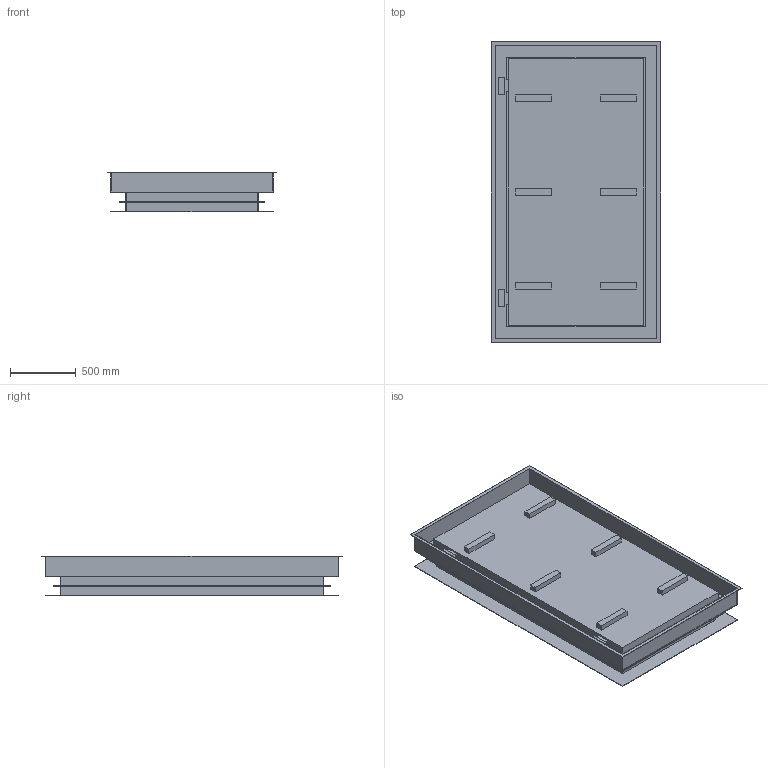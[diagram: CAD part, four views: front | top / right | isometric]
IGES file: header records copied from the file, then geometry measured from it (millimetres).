
Start section:  PTC IGES file: 51502308.igs
Global section: file name: 51502308.igs; native system: Creo Parametric by PTC Inc.; preprocessor: 2019224; author: hrl; organization: Unknown; date: 20200629.150437; units: millimetre
Bounding box: 1290 x 2290 x 300 mm (x, y, z)
Surface area: 13194928 mm2 (no closed solid volume)
Topology: 0 solids, 0 shells, 129 faces, 624 edges, 624 vertices
Faces by surface type: bspline 129
